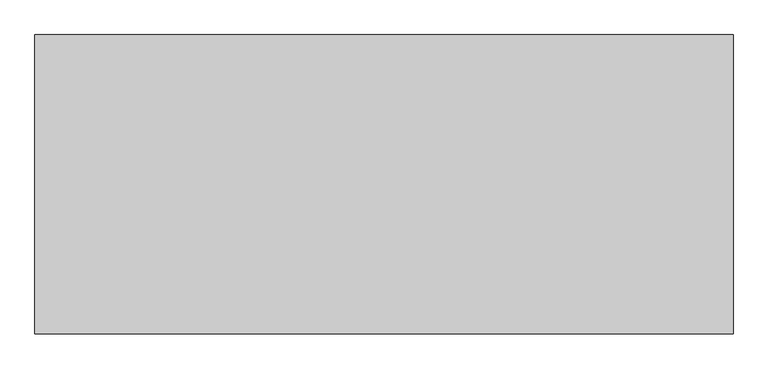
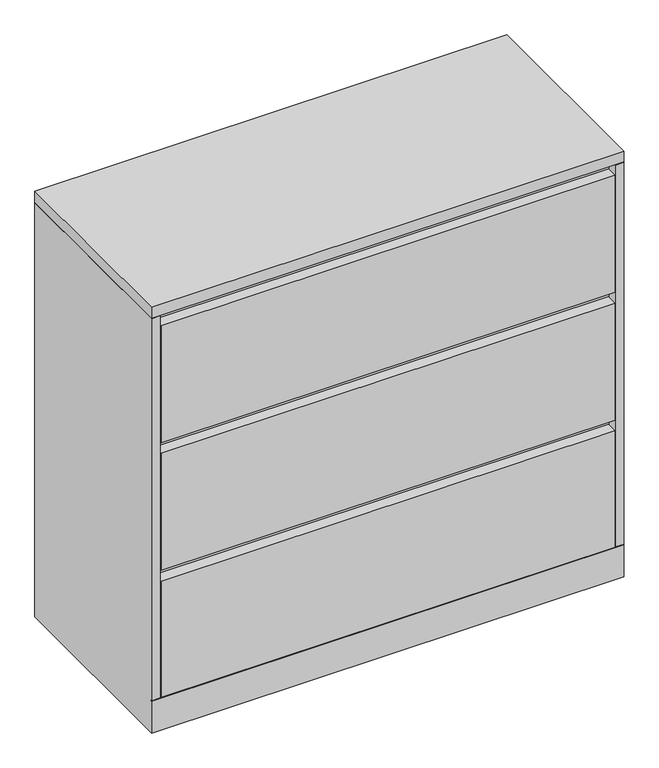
"""IFC4 building model written with IfcOpenShell, lengths in millimetres: furniture geometry, Steelcase - Universal Storage - Lateral File - 3 and 4 High - Flush Steel : 3 Drawers - 18D x 42W."""

from ifc_helpers import new_model, si_unit, frame, origin, place, context, project, spatial, polyline, outline, extrude, faceted_brep, source, transform, mapped, element, save


def furniture_9ea95fbd(model_context):
    return source(origin(), model_context, "Body", "SolidModel", [
        extrude(outline(polyline([(1066.8, 457.2), (1066.8, 0.0), (0.0, 0.0), (0.0, 457.2), (1066.8, 457.2)])), frame((0.0, 0.0, 990.6), z_axis=(0.0, 0.0, 1.0), x_axis=(1.0, 0.0, 0.0)), (0.0, 0.0, 1.0), 25.4),
        faceted_brep([(1066.8, 0.0, 0.0), (1066.8, 457.2, 0.0), (1066.8, 457.2, 989.0759651), (1066.8, 0.0, 989.0759651), (1066.8, 0.0, 77.7239985), (1066.8, 1.524, 77.7239985), (1066.8, 1.524, 76.2), (1066.8, 0.0, 76.2), (0.0, 0.0, 0.0), (0.0, 0.0, 76.2), (0.0, 1.524, 76.2), (0.0, 1.524, 77.7239985), (0.0, 0.0, 77.7239985), (0.0, 0.0, 989.0759651), (0.0, 457.2, 989.0759651), (0.0, 457.2, 0.0), (19.304, 0.0, 989.0759651), (19.304, 25.4000121, 989.0759651), (1047.496, 25.4000121, 989.0759651), (1047.496, 0.0, 989.0759651), (19.304, 25.4000121, 101.600003), (1047.496, 25.4000121, 101.600003), (19.304, 1.524, 101.600003), (1047.496, 1.524, 101.600003), (1047.496, 1.524, 77.7239985), (19.304, 1.524, 77.7239985), (19.304, 0.0, 77.7239985), (1047.496, 0.0, 77.7239985)], [[[0, 1, 2, 3, 4, 5, 6, 7]], [[8, 9, 10, 11, 12, 13, 14, 15]], [[1, 0, 8, 15]], [[2, 1, 15, 14]], [[3, 2, 14, 13, 16, 17, 18, 19]], [[17, 20, 21, 18]], [[20, 22, 23, 21]], [[10, 6, 5, 24, 23, 22, 25, 11]], [[7, 6, 10, 9]], [[0, 7, 9, 8]], [[17, 16, 26, 25, 22, 20]], [[26, 16, 13, 12]], [[25, 26, 12, 11]], [[24, 27, 19, 18, 21, 23]], [[27, 24, 5, 4]], [[19, 27, 4, 3]]]),
        extrude(outline(polyline([(1041.4000242, 431.7999992), (1041.4000242, 25.4000121), (25.4000008, 25.4000121), (25.4000008, 431.7999992), (1041.4000242, 431.7999992)])), frame((0.0, 0.0, 989.0759651), z_axis=(0.0, 0.0, 1.0), x_axis=(1.0, 0.0, 0.0)), (0.0, 0.0, 1.0), 1.5240349),
        extrude(outline(polyline([(1045.9719835, 0.0), (20.8280006, 0.0), (20.8280006, 25.4000121), (1045.9719835, 25.4000121), (1045.9719835, 0.0)])), frame((0.0, 0.0, 685.8), z_axis=(0.0, 0.0, 1.0), x_axis=(1.0, 0.0, 0.0)), (0.0, 0.0, 1.0), 279.4),
        extrude(outline(polyline([(1045.9719835, 0.0), (20.8280006, 0.0), (20.8280006, 25.4000121), (1045.9719835, 25.4000121), (1045.9719835, 0.0)])), frame((0.0, 0.0, 381.0), z_axis=(0.0, 0.0, 1.0), x_axis=(1.0, 0.0, 0.0)), (0.0, 0.0, 1.0), 279.4),
        extrude(outline(polyline([(1045.9719835, 0.0), (20.8280006, 0.0), (20.8280006, 25.4000121), (1045.9719835, 25.4000121), (1045.9719835, 0.0)])), frame((0.0, 0.0, 77.7239985), z_axis=(0.0, 0.0, 1.0), x_axis=(1.0, 0.0, 0.0)), (0.0, 0.0, 1.0), 277.8759893),
    ])


if __name__ == "__main__":
    model = new_model("IFC4")
    model_context = context("Model", 3, world=origin())
    ifc_project = project(units=[si_unit("LENGTHUNIT", "METRE", prefix="MILLI")], contexts=[model_context])
    site = spatial("IfcSite", under=ifc_project)
    building = spatial("IfcBuilding", under=site)
    placement = place(None, origin())
    furniture_shape = furniture_9ea95fbd(model_context)
    element("IfcFurniture", 1, ObjectType="Steelcase - Universal Storage - Lateral File - 3 and 4 High - Flush Steel : 3 Drawers - 18D x 42W", at=placement, inside=building, context=model_context, shape_type="MappedRepresentation", body=[
        mapped(furniture_shape, transform((0.0, 0.0, 0.0), x_axis=(1.0, 0.0, 0.0), y_axis=(0.0, 1.0, 0.0), z_axis=(0.0, 0.0, 1.0))),
    ])
    save(model, "model.ifc")
